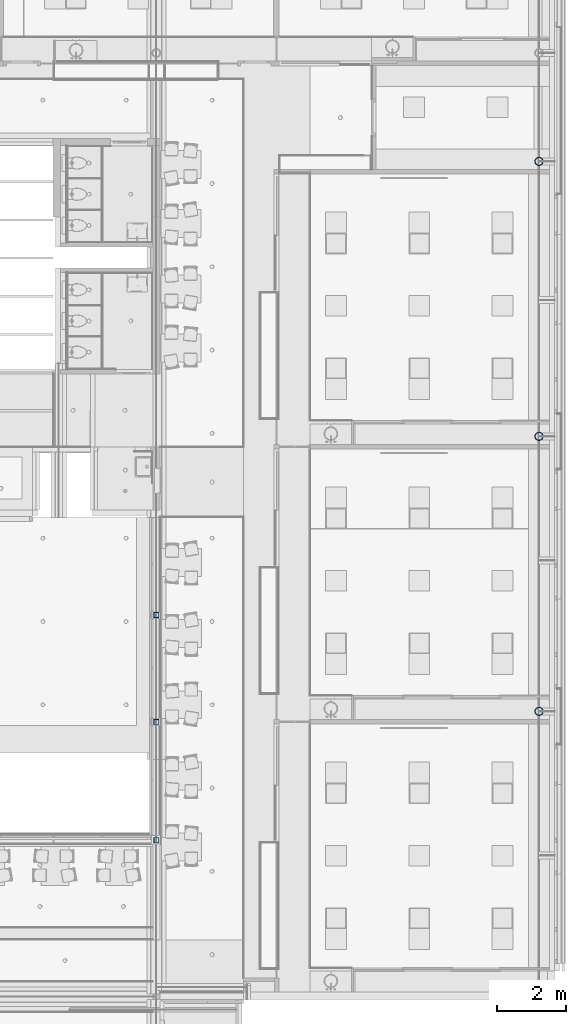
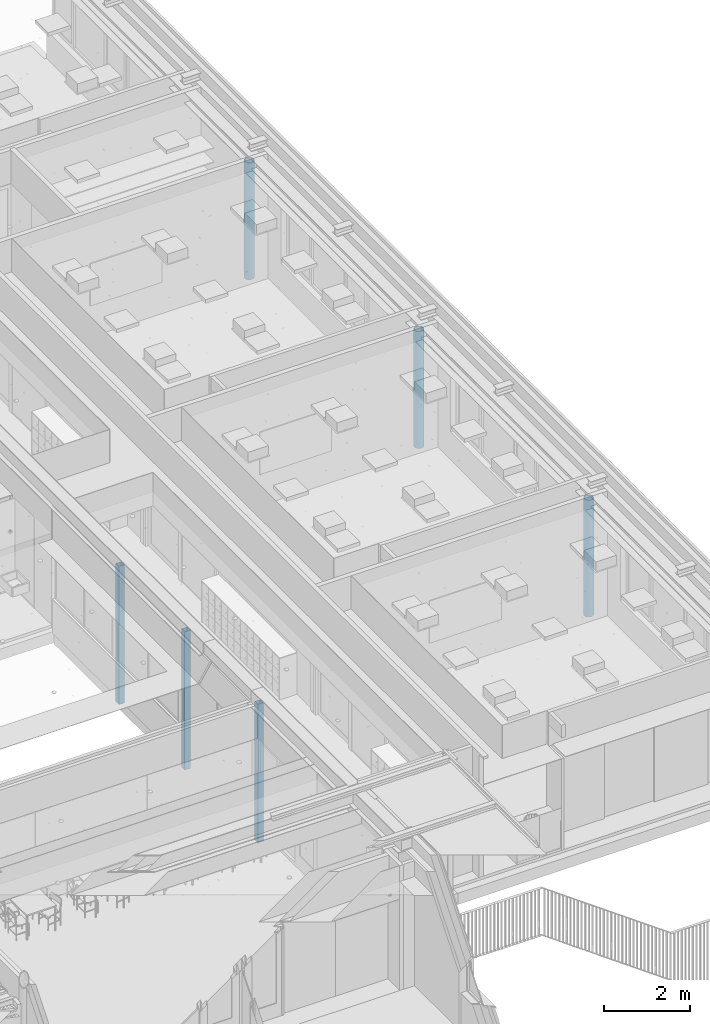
# One storey, part 11 of 260: 6 columns.
"""IFC2X3 building model written with IfcOpenShell, lengths in millimetres."""

from ifc_helpers import new_model, entity, si_unit, converted_unit, derived_unit, money_unit, direction, frame, origin_with_axes, place, context, subcontext, project, spatial, faceted_brep, material, type_object, element, save


model = new_model("IFC2X3")

# Units and contexts
model_context = context("Model", 3, precision=0.01, world=origin_with_axes(), true_north=direction((0.0, 1.0)))
plan_context = context("Plan", 3, precision=0.01, world=origin_with_axes(), true_north=direction((0.0, 1.0)))
body_context = subcontext(model_context, "Body", "Model", "MODEL_VIEW")
ifc_project = project(units=[si_unit("LENGTHUNIT", "METRE", prefix="MILLI"), si_unit("AREAUNIT", "SQUARE_METRE"), si_unit("VOLUMEUNIT", "CUBIC_METRE"), converted_unit("PLANEANGLEUNIT", "DEGREE", entity("IfcPlaneAngleMeasure", 0.0174532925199), si_unit("PLANEANGLEUNIT", "RADIAN"), dimensions=[0, 0, 0, 0, 0, 0, 0]), money_unit("EUR"), converted_unit("TIMEUNIT", "Year", entity("IfcTimeMeasure", 31556926.0), si_unit("TIMEUNIT", "SECOND"), dimensions=[0, 0, 1, 0, 0, 0, 0]), si_unit("MASSUNIT", "GRAM", prefix="KILO"), si_unit("THERMODYNAMICTEMPERATUREUNIT", "DEGREE_CELSIUS"), si_unit("LUMINOUSINTENSITYUNIT", "LUMEN"), si_unit("ENERGYUNIT", "JOULE", prefix="MEGA"), derived_unit("THERMALCONDUCTANCEUNIT", [(si_unit("POWERUNIT", "WATT"), 1), (si_unit("LENGTHUNIT", "METRE"), -1), (si_unit("THERMODYNAMICTEMPERATUREUNIT", "KELVIN"), -1)]), derived_unit("SPECIFICHEATCAPACITYUNIT", [(si_unit("ENERGYUNIT", "JOULE"), 1), (si_unit("MASSUNIT", "GRAM", prefix="KILO"), -1), (si_unit("THERMODYNAMICTEMPERATUREUNIT", "KELVIN"), -1)]), derived_unit("MASSDENSITYUNIT", [(si_unit("MASSUNIT", "GRAM", prefix="KILO"), 1), (si_unit("VOLUMEUNIT", "CUBIC_METRE"), -1)])], contexts=[model_context, plan_context])

# Site, building, storey
site_placement = place(None, origin_with_axes())
site = spatial("IfcSite", under=ifc_project, at=site_placement, Name="Site", CompositionType="ELEMENT")
building_placement = place(site_placement, origin_with_axes())
building = spatial("IfcBuilding", under=site, at=building_placement, Name="Naam gebouw", CompositionType="ELEMENT")
storey_placement = place(building_placement, frame((0.0, 0.0, 3960.0), z_axis=(0.0, 0.0, 1.0), x_axis=(1.0, 0.0, 0.0)))
storey = spatial("IfcBuildingStorey", under=building, at=storey_placement, Name="verdieping", CompositionType="ELEMENT", Elevation=3960.0)

# Columns
ifc_material = material(Name="Metaal - Staal C wit")
column_type_1 = type_object("IfcColumnType", Name="Lucht D245", PredefinedType="COLUMN")
column_1_placement = place(storey_placement, frame((55575.0, 28275.0, -70.0), z_axis=(0.0, 0.0, 1.0), x_axis=(1.0, 0.0, 0.0)))
element("IfcColumn", 1, at=column_1_placement, inside=storey, type_object=column_type_1, material=ifc_material, Name="28_kolom ø 273mm", ObjectType="COLUMN", context=body_context, shape_type="Brep", body=[
    faceted_brep([(-122.25, 0.0, 0.0), (-119.184937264, -27.2031841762, 0.0), (-119.184937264, -27.2031841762, 3330.0), (-122.25, 0.0, 3330.0), (-119.184937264, 27.2031841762, 0.0), (-110.143444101, 53.0422871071, 0.0), (-95.5788987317, 76.2216282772, 0.0), (-76.2216282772, 95.5788987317, 0.0), (-53.0422871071, 110.143444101, 0.0), (-27.2031841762, 119.184937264, 0.0), (0.0, 122.25, 0.0), (27.2031841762, 119.184937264, 0.0), (53.0422871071, 110.143444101, 0.0), (76.2216282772, 95.5788987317, 0.0), (95.5788987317, 76.2216282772, 0.0), (110.143444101, 53.0422871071, 0.0), (119.184937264, 27.2031841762, 0.0), (122.25, 0.0, 0.0), (119.184937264, -27.2031841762, 0.0), (110.143444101, -53.0422871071, 0.0), (95.5788987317, -76.2216282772, 0.0), (76.2216282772, -95.5788987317, 0.0), (53.0422871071, -110.143444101, 0.0), (27.2031841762, -119.184937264, 0.0), (0.0, -122.25, 0.0), (-27.2031841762, -119.184937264, 0.0), (-53.0422871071, -110.143444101, 0.0), (-76.2216282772, -95.5788987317, 0.0), (-95.5788987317, -76.2216282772, 0.0), (-110.143444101, -53.0422871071, 0.0), (-106.25, 0.0, 0.0), (-102.629619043, -27.4995235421, 0.0), (-92.0151991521, -53.125, 0.0), (-75.1300955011, -75.1300955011, 0.0), (-53.125, -92.0151991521, 0.0), (-27.4995235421, -102.629619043, 0.0), (0.0, -106.25, 0.0), (27.4995235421, -102.629619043, 0.0), (53.125, -92.0151991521, 0.0), (75.1300955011, -75.1300955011, 0.0), (92.0151991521, -53.125, 0.0), (102.629619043, -27.4995235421, 0.0), (106.25, 0.0, 0.0), (102.629619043, 27.4995235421, 0.0), (92.0151991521, 53.125, 0.0), (75.1300955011, 75.1300955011, 0.0), (53.125, 92.0151991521, 0.0), (27.4995235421, 102.629619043, 0.0), (0.0, 106.25, 0.0), (-27.4995235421, 102.629619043, 0.0), (-53.125, 92.0151991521, 0.0), (-75.1300955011, 75.1300955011, 0.0), (-92.0151991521, 53.125, 0.0), (-102.629619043, 27.4995235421, 0.0), (-110.143444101, -53.0422871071, 3330.0), (-95.5788987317, -76.2216282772, 3330.0), (-76.2216282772, -95.5788987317, 3330.0), (-53.0422871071, -110.143444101, 3330.0), (-27.2031841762, -119.184937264, 3330.0), (0.0, -122.25, 3330.0), (27.2031841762, -119.184937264, 3330.0), (53.0422871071, -110.143444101, 3330.0), (76.2216282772, -95.5788987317, 3330.0), (95.5788987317, -76.2216282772, 3330.0), (110.143444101, -53.0422871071, 3330.0), (119.184937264, -27.2031841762, 3330.0), (122.25, 0.0, 3330.0), (119.184937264, 27.2031841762, 3330.0), (110.143444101, 53.0422871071, 3330.0), (95.5788987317, 76.2216282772, 3330.0), (76.2216282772, 95.5788987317, 3330.0), (53.0422871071, 110.143444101, 3330.0), (27.2031841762, 119.184937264, 3330.0), (0.0, 122.25, 3330.0), (-27.2031841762, 119.184937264, 3330.0), (-53.0422871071, 110.143444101, 3330.0), (-76.2216282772, 95.5788987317, 3330.0), (-95.5788987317, 76.2216282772, 3330.0), (-110.143444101, 53.0422871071, 3330.0), (-119.184937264, 27.2031841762, 3330.0), (-106.25, 0.0, 3330.0), (-102.629619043, 27.4995235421, 3330.0), (-92.0151991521, 53.125, 3330.0), (-75.1300955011, 75.1300955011, 3330.0), (-53.125, 92.0151991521, 3330.0), (-27.4995235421, 102.629619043, 3330.0), (0.0, 106.25, 3330.0), (27.4995235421, 102.629619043, 3330.0), (53.125, 92.0151991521, 3330.0), (75.1300955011, 75.1300955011, 3330.0), (92.0151991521, 53.125, 3330.0), (102.629619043, 27.4995235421, 3330.0), (106.25, 0.0, 3330.0), (102.629619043, -27.4995235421, 3330.0), (92.0151991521, -53.125, 3330.0), (75.1300955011, -75.1300955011, 3330.0), (53.125, -92.0151991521, 3330.0), (27.4995235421, -102.629619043, 3330.0), (0.0, -106.25, 3330.0), (-27.4995235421, -102.629619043, 3330.0), (-53.125, -92.0151991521, 3330.0), (-75.1300955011, -75.1300955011, 3330.0), (-92.0151991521, -53.125, 3330.0), (-102.629619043, -27.4995235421, 3330.0)], [[[0, 1, 2, 3]], [[0, 4, 5, 6, 7, 8, 9, 10, 11, 12, 13, 14, 15, 16, 17, 18, 19, 20, 21, 22, 23, 24, 25, 26, 27, 28, 29, 1], [30, 31, 32, 33, 34, 35, 36, 37, 38, 39, 40, 41, 42, 43, 44, 45, 46, 47, 48, 49, 50, 51, 52, 53]], [[1, 29, 54, 2]], [[3, 2, 54, 55, 56, 57, 58, 59, 60, 61, 62, 63, 64, 65, 66, 67, 68, 69, 70, 71, 72, 73, 74, 75, 76, 77, 78, 79], [80, 81, 82, 83, 84, 85, 86, 87, 88, 89, 90, 91, 92, 93, 94, 95, 96, 97, 98, 99, 100, 101, 102, 103]], [[4, 0, 3, 79]], [[5, 4, 79, 78]], [[6, 5, 78, 77]], [[7, 6, 77, 76]], [[8, 7, 76, 75]], [[9, 8, 75, 74]], [[10, 9, 74, 73]], [[11, 10, 73, 72]], [[12, 11, 72, 71]], [[13, 12, 71, 70]], [[14, 13, 70, 69]], [[15, 14, 69, 68]], [[16, 15, 68, 67]], [[17, 16, 67, 66]], [[18, 17, 66, 65]], [[19, 18, 65, 64]], [[20, 19, 64, 63]], [[21, 20, 63, 62]], [[22, 21, 62, 61]], [[23, 22, 61, 60]], [[24, 23, 60, 59]], [[25, 24, 59, 58]], [[26, 25, 58, 57]], [[27, 26, 57, 56]], [[28, 27, 56, 55]], [[29, 28, 55, 54]], [[31, 30, 80, 103]], [[32, 31, 103, 102]], [[33, 32, 102, 101]], [[34, 33, 101, 100]], [[35, 34, 100, 99]], [[36, 35, 99, 98]], [[37, 36, 98, 97]], [[38, 37, 97, 96]], [[39, 38, 96, 95]], [[40, 39, 95, 94]], [[41, 40, 94, 93]], [[42, 41, 93, 92]], [[43, 42, 92, 91]], [[44, 43, 91, 90]], [[45, 44, 90, 89]], [[46, 45, 89, 88]], [[47, 46, 88, 87]], [[48, 47, 87, 86]], [[49, 48, 86, 85]], [[50, 49, 85, 84]], [[51, 50, 84, 83]], [[52, 51, 83, 82]], [[53, 52, 82, 81]], [[30, 53, 81, 80]]]),
])
column_2_placement = place(storey_placement, frame((55575.0, 20350.0, -70.0), z_axis=(0.0, 0.0, 1.0), x_axis=(1.0, 0.0, 0.0)))
element("IfcColumn", 2, at=column_2_placement, inside=storey, type_object=column_type_1, material=ifc_material, Name="28_kolom ø 273mm", ObjectType="COLUMN", context=body_context, shape_type="Brep", body=[
    faceted_brep([(-122.25, 0.0, 0.0), (-119.184937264, -27.2031841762, 0.0), (-119.184937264, -27.2031841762, 3330.0), (-122.25, 0.0, 3330.0), (-119.184937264, 27.2031841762, 0.0), (-110.143444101, 53.0422871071, 0.0), (-95.5788987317, 76.2216282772, 0.0), (-76.2216282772, 95.5788987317, 0.0), (-53.0422871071, 110.143444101, 0.0), (-27.2031841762, 119.184937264, 0.0), (0.0, 122.25, 0.0), (27.2031841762, 119.184937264, 0.0), (53.0422871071, 110.143444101, 0.0), (76.2216282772, 95.5788987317, 0.0), (95.5788987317, 76.2216282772, 0.0), (110.143444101, 53.0422871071, 0.0), (119.184937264, 27.2031841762, 0.0), (122.25, 0.0, 0.0), (119.184937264, -27.2031841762, 0.0), (110.143444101, -53.0422871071, 0.0), (95.5788987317, -76.2216282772, 0.0), (76.2216282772, -95.5788987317, 0.0), (53.0422871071, -110.143444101, 0.0), (27.2031841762, -119.184937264, 0.0), (0.0, -122.25, 0.0), (-27.2031841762, -119.184937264, 0.0), (-53.0422871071, -110.143444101, 0.0), (-76.2216282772, -95.5788987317, 0.0), (-95.5788987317, -76.2216282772, 0.0), (-110.143444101, -53.0422871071, 0.0), (-106.25, 0.0, 0.0), (-102.629619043, -27.4995235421, 0.0), (-92.0151991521, -53.125, 0.0), (-75.1300955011, -75.1300955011, 0.0), (-53.125, -92.0151991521, 0.0), (-27.4995235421, -102.629619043, 0.0), (0.0, -106.25, 0.0), (27.4995235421, -102.629619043, 0.0), (53.125, -92.0151991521, 0.0), (75.1300955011, -75.1300955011, 0.0), (92.0151991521, -53.125, 0.0), (102.629619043, -27.4995235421, 0.0), (106.25, 0.0, 0.0), (102.629619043, 27.4995235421, 0.0), (92.0151991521, 53.125, 0.0), (75.1300955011, 75.1300955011, 0.0), (53.125, 92.0151991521, 0.0), (27.4995235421, 102.629619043, 0.0), (0.0, 106.25, 0.0), (-27.4995235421, 102.629619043, 0.0), (-53.125, 92.0151991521, 0.0), (-75.1300955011, 75.1300955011, 0.0), (-92.0151991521, 53.125, 0.0), (-102.629619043, 27.4995235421, 0.0), (-110.143444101, -53.0422871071, 3330.0), (-95.5788987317, -76.2216282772, 3330.0), (-76.2216282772, -95.5788987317, 3330.0), (-53.0422871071, -110.143444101, 3330.0), (-27.2031841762, -119.184937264, 3330.0), (0.0, -122.25, 3330.0), (27.2031841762, -119.184937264, 3330.0), (53.0422871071, -110.143444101, 3330.0), (76.2216282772, -95.5788987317, 3330.0), (95.5788987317, -76.2216282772, 3330.0), (110.143444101, -53.0422871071, 3330.0), (119.184937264, -27.2031841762, 3330.0), (122.25, 0.0, 3330.0), (119.184937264, 27.2031841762, 3330.0), (110.143444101, 53.0422871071, 3330.0), (95.5788987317, 76.2216282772, 3330.0), (76.2216282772, 95.5788987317, 3330.0), (53.0422871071, 110.143444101, 3330.0), (27.2031841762, 119.184937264, 3330.0), (0.0, 122.25, 3330.0), (-27.2031841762, 119.184937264, 3330.0), (-53.0422871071, 110.143444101, 3330.0), (-76.2216282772, 95.5788987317, 3330.0), (-95.5788987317, 76.2216282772, 3330.0), (-110.143444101, 53.0422871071, 3330.0), (-119.184937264, 27.2031841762, 3330.0), (-106.25, 0.0, 3330.0), (-102.629619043, 27.4995235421, 3330.0), (-92.0151991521, 53.125, 3330.0), (-75.1300955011, 75.1300955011, 3330.0), (-53.125, 92.0151991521, 3330.0), (-27.4995235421, 102.629619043, 3330.0), (0.0, 106.25, 3330.0), (27.4995235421, 102.629619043, 3330.0), (53.125, 92.0151991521, 3330.0), (75.1300955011, 75.1300955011, 3330.0), (92.0151991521, 53.125, 3330.0), (102.629619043, 27.4995235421, 3330.0), (106.25, 0.0, 3330.0), (102.629619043, -27.4995235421, 3330.0), (92.0151991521, -53.125, 3330.0), (75.1300955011, -75.1300955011, 3330.0), (53.125, -92.0151991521, 3330.0), (27.4995235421, -102.629619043, 3330.0), (0.0, -106.25, 3330.0), (-27.4995235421, -102.629619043, 3330.0), (-53.125, -92.0151991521, 3330.0), (-75.1300955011, -75.1300955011, 3330.0), (-92.0151991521, -53.125, 3330.0), (-102.629619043, -27.4995235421, 3330.0)], [[[0, 1, 2, 3]], [[0, 4, 5, 6, 7, 8, 9, 10, 11, 12, 13, 14, 15, 16, 17, 18, 19, 20, 21, 22, 23, 24, 25, 26, 27, 28, 29, 1], [30, 31, 32, 33, 34, 35, 36, 37, 38, 39, 40, 41, 42, 43, 44, 45, 46, 47, 48, 49, 50, 51, 52, 53]], [[1, 29, 54, 2]], [[3, 2, 54, 55, 56, 57, 58, 59, 60, 61, 62, 63, 64, 65, 66, 67, 68, 69, 70, 71, 72, 73, 74, 75, 76, 77, 78, 79], [80, 81, 82, 83, 84, 85, 86, 87, 88, 89, 90, 91, 92, 93, 94, 95, 96, 97, 98, 99, 100, 101, 102, 103]], [[4, 0, 3, 79]], [[5, 4, 79, 78]], [[6, 5, 78, 77]], [[7, 6, 77, 76]], [[8, 7, 76, 75]], [[9, 8, 75, 74]], [[10, 9, 74, 73]], [[11, 10, 73, 72]], [[12, 11, 72, 71]], [[13, 12, 71, 70]], [[14, 13, 70, 69]], [[15, 14, 69, 68]], [[16, 15, 68, 67]], [[17, 16, 67, 66]], [[18, 17, 66, 65]], [[19, 18, 65, 64]], [[20, 19, 64, 63]], [[21, 20, 63, 62]], [[22, 21, 62, 61]], [[23, 22, 61, 60]], [[24, 23, 60, 59]], [[25, 24, 59, 58]], [[26, 25, 58, 57]], [[27, 26, 57, 56]], [[28, 27, 56, 55]], [[29, 28, 55, 54]], [[31, 30, 80, 103]], [[32, 31, 103, 102]], [[33, 32, 102, 101]], [[34, 33, 101, 100]], [[35, 34, 100, 99]], [[36, 35, 99, 98]], [[37, 36, 98, 97]], [[38, 37, 97, 96]], [[39, 38, 96, 95]], [[40, 39, 95, 94]], [[41, 40, 94, 93]], [[42, 41, 93, 92]], [[43, 42, 92, 91]], [[44, 43, 91, 90]], [[45, 44, 90, 89]], [[46, 45, 89, 88]], [[47, 46, 88, 87]], [[48, 47, 87, 86]], [[49, 48, 86, 85]], [[50, 49, 85, 84]], [[51, 50, 84, 83]], [[52, 51, 83, 82]], [[53, 52, 82, 81]], [[30, 53, 81, 80]]]),
])
column_3_placement = place(storey_placement, frame((55575.0, 36200.0, -70.0), z_axis=(0.0, 0.0, 1.0), x_axis=(1.0, 0.0, 0.0)))
element("IfcColumn", 3, at=column_3_placement, inside=storey, type_object=column_type_1, material=ifc_material, Name="28_kolom ø 273mm", ObjectType="COLUMN", context=body_context, shape_type="Brep", body=[
    faceted_brep([(-122.25, 0.0, 0.0), (-119.184937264, -27.2031841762, 0.0), (-119.184937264, -27.2031841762, 3330.0), (-122.25, 0.0, 3330.0), (-119.184937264, 27.2031841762, 0.0), (-110.143444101, 53.0422871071, 0.0), (-95.5788987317, 76.2216282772, 0.0), (-76.2216282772, 95.5788987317, 0.0), (-53.0422871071, 110.143444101, 0.0), (-27.2031841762, 119.184937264, 0.0), (0.0, 122.25, 0.0), (27.2031841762, 119.184937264, 0.0), (53.0422871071, 110.143444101, 0.0), (76.2216282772, 95.5788987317, 0.0), (95.5788987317, 76.2216282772, 0.0), (110.143444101, 53.0422871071, 0.0), (119.184937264, 27.2031841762, 0.0), (122.25, 0.0, 0.0), (119.184937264, -27.2031841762, 0.0), (110.143444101, -53.0422871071, 0.0), (95.5788987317, -76.2216282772, 0.0), (76.2216282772, -95.5788987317, 0.0), (53.0422871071, -110.143444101, 0.0), (27.2031841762, -119.184937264, 0.0), (0.0, -122.25, 0.0), (-27.2031841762, -119.184937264, 0.0), (-53.0422871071, -110.143444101, 0.0), (-76.2216282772, -95.5788987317, 0.0), (-95.5788987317, -76.2216282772, 0.0), (-110.143444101, -53.0422871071, 0.0), (-106.25, 0.0, 0.0), (-102.629619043, -27.4995235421, 0.0), (-92.0151991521, -53.125, 0.0), (-75.1300955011, -75.1300955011, 0.0), (-53.125, -92.0151991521, 0.0), (-27.4995235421, -102.629619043, 0.0), (0.0, -106.25, 0.0), (27.4995235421, -102.629619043, 0.0), (53.125, -92.0151991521, 0.0), (75.1300955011, -75.1300955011, 0.0), (92.0151991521, -53.125, 0.0), (102.629619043, -27.4995235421, 0.0), (106.25, 0.0, 0.0), (102.629619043, 27.4995235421, 0.0), (92.0151991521, 53.125, 0.0), (75.1300955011, 75.1300955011, 0.0), (53.125, 92.0151991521, 0.0), (27.4995235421, 102.629619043, 0.0), (0.0, 106.25, 0.0), (-27.4995235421, 102.629619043, 0.0), (-53.125, 92.0151991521, 0.0), (-75.1300955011, 75.1300955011, 0.0), (-92.0151991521, 53.125, 0.0), (-102.629619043, 27.4995235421, 0.0), (-110.143444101, -53.0422871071, 3330.0), (-95.5788987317, -76.2216282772, 3330.0), (-76.2216282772, -95.5788987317, 3330.0), (-53.0422871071, -110.143444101, 3330.0), (-27.2031841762, -119.184937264, 3330.0), (0.0, -122.25, 3330.0), (27.2031841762, -119.184937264, 3330.0), (53.0422871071, -110.143444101, 3330.0), (76.2216282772, -95.5788987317, 3330.0), (95.5788987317, -76.2216282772, 3330.0), (110.143444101, -53.0422871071, 3330.0), (119.184937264, -27.2031841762, 3330.0), (122.25, 0.0, 3330.0), (119.184937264, 27.2031841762, 3330.0), (110.143444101, 53.0422871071, 3330.0), (95.5788987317, 76.2216282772, 3330.0), (76.2216282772, 95.5788987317, 3330.0), (53.0422871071, 110.143444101, 3330.0), (27.2031841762, 119.184937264, 3330.0), (0.0, 122.25, 3330.0), (-27.2031841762, 119.184937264, 3330.0), (-53.0422871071, 110.143444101, 3330.0), (-76.2216282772, 95.5788987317, 3330.0), (-95.5788987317, 76.2216282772, 3330.0), (-110.143444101, 53.0422871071, 3330.0), (-119.184937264, 27.2031841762, 3330.0), (-106.25, 0.0, 3330.0), (-102.629619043, 27.4995235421, 3330.0), (-92.0151991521, 53.125, 3330.0), (-75.1300955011, 75.1300955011, 3330.0), (-53.125, 92.0151991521, 3330.0), (-27.4995235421, 102.629619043, 3330.0), (0.0, 106.25, 3330.0), (27.4995235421, 102.629619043, 3330.0), (53.125, 92.0151991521, 3330.0), (75.1300955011, 75.1300955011, 3330.0), (92.0151991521, 53.125, 3330.0), (102.629619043, 27.4995235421, 3330.0), (106.25, 0.0, 3330.0), (102.629619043, -27.4995235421, 3330.0), (92.0151991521, -53.125, 3330.0), (75.1300955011, -75.1300955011, 3330.0), (53.125, -92.0151991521, 3330.0), (27.4995235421, -102.629619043, 3330.0), (0.0, -106.25, 3330.0), (-27.4995235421, -102.629619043, 3330.0), (-53.125, -92.0151991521, 3330.0), (-75.1300955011, -75.1300955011, 3330.0), (-92.0151991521, -53.125, 3330.0), (-102.629619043, -27.4995235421, 3330.0)], [[[0, 1, 2, 3]], [[0, 4, 5, 6, 7, 8, 9, 10, 11, 12, 13, 14, 15, 16, 17, 18, 19, 20, 21, 22, 23, 24, 25, 26, 27, 28, 29, 1], [30, 31, 32, 33, 34, 35, 36, 37, 38, 39, 40, 41, 42, 43, 44, 45, 46, 47, 48, 49, 50, 51, 52, 53]], [[1, 29, 54, 2]], [[3, 2, 54, 55, 56, 57, 58, 59, 60, 61, 62, 63, 64, 65, 66, 67, 68, 69, 70, 71, 72, 73, 74, 75, 76, 77, 78, 79], [80, 81, 82, 83, 84, 85, 86, 87, 88, 89, 90, 91, 92, 93, 94, 95, 96, 97, 98, 99, 100, 101, 102, 103]], [[4, 0, 3, 79]], [[5, 4, 79, 78]], [[6, 5, 78, 77]], [[7, 6, 77, 76]], [[8, 7, 76, 75]], [[9, 8, 75, 74]], [[10, 9, 74, 73]], [[11, 10, 73, 72]], [[12, 11, 72, 71]], [[13, 12, 71, 70]], [[14, 13, 70, 69]], [[15, 14, 69, 68]], [[16, 15, 68, 67]], [[17, 16, 67, 66]], [[18, 17, 66, 65]], [[19, 18, 65, 64]], [[20, 19, 64, 63]], [[21, 20, 63, 62]], [[22, 21, 62, 61]], [[23, 22, 61, 60]], [[24, 23, 60, 59]], [[25, 24, 59, 58]], [[26, 25, 58, 57]], [[27, 26, 57, 56]], [[28, 27, 56, 55]], [[29, 28, 55, 54]], [[31, 30, 80, 103]], [[32, 31, 103, 102]], [[33, 32, 102, 101]], [[34, 33, 101, 100]], [[35, 34, 100, 99]], [[36, 35, 99, 98]], [[37, 36, 98, 97]], [[38, 37, 97, 96]], [[39, 38, 96, 95]], [[40, 39, 95, 94]], [[41, 40, 94, 93]], [[42, 41, 93, 92]], [[43, 42, 92, 91]], [[44, 43, 91, 90]], [[45, 44, 90, 89]], [[46, 45, 89, 88]], [[47, 46, 88, 87]], [[48, 47, 87, 86]], [[49, 48, 86, 85]], [[50, 49, 85, 84]], [[51, 50, 84, 83]], [[52, 51, 83, 82]], [[53, 52, 82, 81]], [[30, 53, 81, 80]]]),
])
column_type_2 = type_object("IfcColumnType", Name="Lucht 150 x 150", PredefinedType="COLUMN")
for number, where, z_axis, x_axis, name in (
    (4, (44545.0, 16634.99997, -400.000006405), (0.0, 0.0, 1.0), (1.0, 0.0, 0.0), "28_kolom koker"),
    (5, (44545.0, 20050.0, -400.000006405), (0.0, 0.0, 1.0), (1.0, 0.0, 0.0), "28_kolom koker"),
    (6, (44545.0, 23125.0, -400.000006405), (0.0, 0.0, 1.0), (1.0, 0.0, 0.0), "28_kolom koker"),
):
    element("IfcColumn", number, at=place(storey_placement, frame(where, z_axis=z_axis, x_axis=x_axis)), inside=storey, type_object=column_type_2, material=ifc_material, Name=name, ObjectType="COLUMN", context=body_context, shape_type="Brep", body=[
        faceted_brep([(75.0, 75.0, 0.0), (-75.0, 75.0, 0.0), (-75.0, 75.0, 3940.00000641), (75.0, 75.0, 3940.00000641), (75.0, -75.0, 0.0), (-75.0, -75.0, 0.0), (-65.0, -65.0, 0.0), (65.0, -65.0, 0.0), (65.0, 65.0, 0.0), (-65.0, 65.0, 0.0), (-75.0, -75.0, 3940.00000641), (75.0, -75.0, 3940.00000641), (-65.0, -65.0, 3940.00000641), (-65.0, 65.0, 3940.00000641), (65.0, 65.0, 3940.00000641), (65.0, -65.0, 3940.00000641)], [[[0, 1, 2, 3]], [[0, 4, 5, 1], [6, 7, 8, 9]], [[1, 5, 10, 2]], [[3, 2, 10, 11], [12, 13, 14, 15]], [[4, 0, 3, 11]], [[5, 4, 11, 10]], [[7, 6, 12, 15]], [[8, 7, 15, 14]], [[9, 8, 14, 13]], [[6, 9, 13, 12]]]),
    ])

save(model, "model.ifc")
